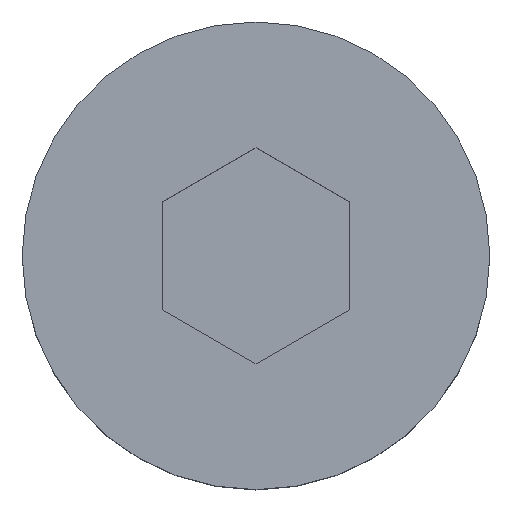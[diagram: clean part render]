
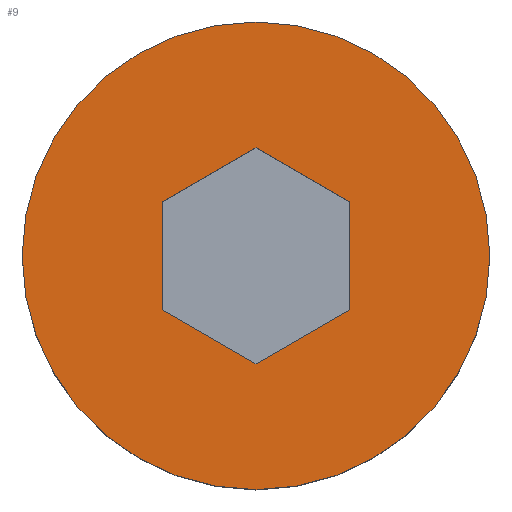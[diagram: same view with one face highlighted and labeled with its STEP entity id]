
A CAD part, top view. The second image highlights one B-rep face of the part: STEP entity #9.
In plain terms, the highlighted planar face has unit normal (0, 0, 1).
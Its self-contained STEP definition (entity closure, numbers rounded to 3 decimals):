
#9 = ADVANCED_FACE ( 'NONE', ( #112, #1162 ), #649, .F. ) ;
#34 = AXIS2_PLACEMENT_3D ( 'NONE', #858, #314, #946 ) ;
#46 = DIRECTION ( 'NONE',  ( 0.866, 0.5, 0. ) ) ;
#88 = CARTESIAN_POINT ( 'NONE',  ( 0., 0., 8. ) ) ;
#97 = VERTEX_POINT ( 'NONE', #493 ) ;
#112 = FACE_OUTER_BOUND ( 'NONE', #132, .T. ) ;
#132 = EDGE_LOOP ( 'NONE', ( #325, #486 ) ) ;
#150 = CARTESIAN_POINT ( 'NONE',  ( -10., 0., 8. ) ) ;
#159 = DIRECTION ( 'NONE',  ( 0.866, -0.5, 0. ) ) ;
#166 = CARTESIAN_POINT ( 'NONE',  ( 5.5, -7.794, 8. ) ) ;
#170 = LINE ( 'NONE', #691, #853 ) ;
#175 = CARTESIAN_POINT ( 'NONE',  ( -4., -2.309, 8. ) ) ;
#189 = DIRECTION ( 'NONE',  ( 1., 0., 0. ) ) ;
#202 = VECTOR ( 'NONE', #353, 1000. ) ;
#247 = CARTESIAN_POINT ( 'NONE',  ( 5.5, 7.794, 8. ) ) ;
#255 = VERTEX_POINT ( 'NONE', #506 ) ;
#271 = ORIENTED_EDGE ( 'NONE', *, *, #962, .F. ) ;
#314 = DIRECTION ( 'NONE',  ( 0., 0., 1. ) ) ;
#325 = ORIENTED_EDGE ( 'NONE', *, *, #1078, .T. ) ;
#328 = DIRECTION ( 'NONE',  ( -0.866, -0.5, 0. ) ) ;
#341 = CIRCLE ( 'NONE', #434, 10. ) ;
#349 = VECTOR ( 'NONE', #159, 1000. ) ;
#350 = DIRECTION ( 'NONE',  ( 0., -1., 0. ) ) ;
#353 = DIRECTION ( 'NONE',  ( -0.866, 0.5, 0. ) ) ;
#360 = EDGE_CURVE ( 'NONE', #427, #598, #1178, .T. ) ;
#379 = VECTOR ( 'NONE', #874, 1000. ) ;
#417 = CARTESIAN_POINT ( 'NONE',  ( -4., 2.309, 8. ) ) ;
#427 = VERTEX_POINT ( 'NONE', #150 ) ;
#434 = AXIS2_PLACEMENT_3D ( 'NONE', #88, #726, #189 ) ;
#441 = LINE ( 'NONE', #778, #379 ) ;
#445 = CARTESIAN_POINT ( 'NONE',  ( 9.5, -0.866, 8. ) ) ;
#449 = LINE ( 'NONE', #445, #202 ) ;
#462 = ORIENTED_EDGE ( 'NONE', *, *, #835, .F. ) ;
#486 = ORIENTED_EDGE ( 'NONE', *, *, #360, .T. ) ;
#493 = CARTESIAN_POINT ( 'NONE',  ( 0., -4.619, 8. ) ) ;
#502 = VECTOR ( 'NONE', #350, 1000. ) ;
#505 = AXIS2_PLACEMENT_3D ( 'NONE', #1055, #673, #510 ) ;
#506 = CARTESIAN_POINT ( 'NONE',  ( 4., 2.309, 8. ) ) ;
#510 = DIRECTION ( 'NONE',  ( -1., 0., 0. ) ) ;
#519 = ORIENTED_EDGE ( 'NONE', *, *, #816, .F. ) ;
#554 = VERTEX_POINT ( 'NONE', #875 ) ;
#571 = ORIENTED_EDGE ( 'NONE', *, *, #921, .F. ) ;
#598 = VERTEX_POINT ( 'NONE', #629 ) ;
#628 = ORIENTED_EDGE ( 'NONE', *, *, #887, .F. ) ;
#629 = CARTESIAN_POINT ( 'NONE',  ( 10., 0., 8. ) ) ;
#649 = PLANE ( 'NONE',  #505 ) ;
#673 = DIRECTION ( 'NONE',  ( 0., 0., -1. ) ) ;
#691 = CARTESIAN_POINT ( 'NONE',  ( 9.5, 0.866, 8. ) ) ;
#726 = DIRECTION ( 'NONE',  ( 0., 0., 1. ) ) ;
#729 = LINE ( 'NONE', #977, #502 ) ;
#778 = CARTESIAN_POINT ( 'NONE',  ( 4., 0., 8. ) ) ;
#816 = EDGE_CURVE ( 'NONE', #97, #1113, #170, .T. ) ;
#819 = EDGE_CURVE ( 'NONE', #1113, #255, #441, .T. ) ;
#835 = EDGE_CURVE ( 'NONE', #554, #1165, #1110, .T. ) ;
#850 = EDGE_LOOP ( 'NONE', ( #462, #271, #1059, #519, #628, #571 ) ) ;
#853 = VECTOR ( 'NONE', #46, 1000. ) ;
#858 = CARTESIAN_POINT ( 'NONE',  ( 0., 0., 8. ) ) ;
#874 = DIRECTION ( 'NONE',  ( 0., 1., 0. ) ) ;
#875 = CARTESIAN_POINT ( 'NONE',  ( 0., 4.619, 8. ) ) ;
#887 = EDGE_CURVE ( 'NONE', #961, #97, #1046, .T. ) ;
#921 = EDGE_CURVE ( 'NONE', #1165, #961, #729, .T. ) ;
#946 = DIRECTION ( 'NONE',  ( 1., 0., 0. ) ) ;
#961 = VERTEX_POINT ( 'NONE', #175 ) ;
#962 = EDGE_CURVE ( 'NONE', #255, #554, #449, .T. ) ;
#977 = CARTESIAN_POINT ( 'NONE',  ( -4., 0., 8. ) ) ;
#1046 = LINE ( 'NONE', #166, #349 ) ;
#1055 = CARTESIAN_POINT ( 'NONE',  ( 10., 0., 8. ) ) ;
#1059 = ORIENTED_EDGE ( 'NONE', *, *, #819, .F. ) ;
#1078 = EDGE_CURVE ( 'NONE', #598, #427, #341, .T. ) ;
#1085 = VECTOR ( 'NONE', #328, 1000. ) ;
#1110 = LINE ( 'NONE', #247, #1085 ) ;
#1113 = VERTEX_POINT ( 'NONE', #1192 ) ;
#1162 = FACE_BOUND ( 'NONE', #850, .T. ) ;
#1165 = VERTEX_POINT ( 'NONE', #417 ) ;
#1178 = CIRCLE ( 'NONE', #34, 10. ) ;
#1192 = CARTESIAN_POINT ( 'NONE',  ( 4., -2.309, 8. ) ) ;
